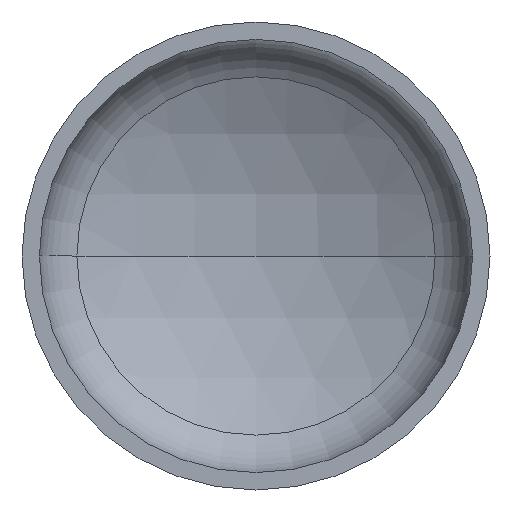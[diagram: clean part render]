
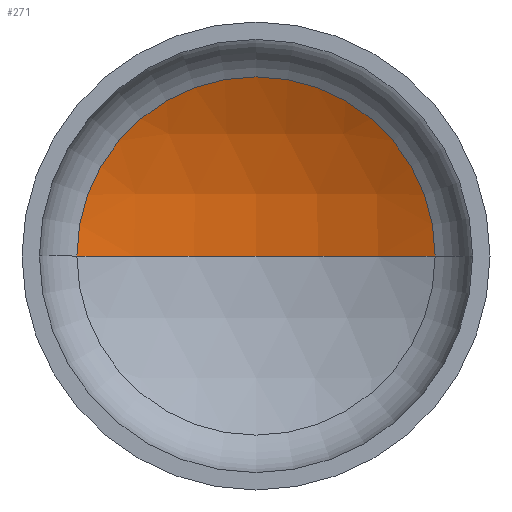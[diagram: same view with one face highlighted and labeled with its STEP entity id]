
A CAD part, front view. The second image highlights one B-rep face of the part: STEP entity #271.
In plain terms, the highlighted spherical face has radius 1120 mm.
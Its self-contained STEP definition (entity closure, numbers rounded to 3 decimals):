
#5 = ORIENTED_EDGE ( 'NONE', *, *, #63, .T. ) ;
#6 = ORIENTED_EDGE ( 'NONE', *, *, #68, .F. ) ;
#18 = AXIS2_PLACEMENT_3D ( 'NONE', #194, #196, #272 ) ;
#19 = AXIS2_PLACEMENT_3D ( 'NONE', #222, #216, #207 ) ;
#20 = AXIS2_PLACEMENT_3D ( 'NONE', #311, #309, #308 ) ;
#31 = EDGE_LOOP ( 'NONE', ( #6, #64, #5 ) ) ;
#51 = VERTEX_POINT ( 'NONE', #288 ) ;
#63 = EDGE_CURVE ( 'NONE', #208, #51, #376, .T. ) ;
#64 = ORIENTED_EDGE ( 'NONE', *, *, #65, .T. ) ;
#65 = EDGE_CURVE ( 'NONE', #105, #208, #307, .T. ) ;
#68 = EDGE_CURVE ( 'NONE', #105, #51, #185, .T. ) ;
#105 = VERTEX_POINT ( 'NONE', #345 ) ;
#146 = CARTESIAN_POINT ( 'NONE',  ( 0., -674.692, 0. ) ) ;
#154 = DIRECTION ( 'NONE',  ( -1., 0., 0. ) ) ;
#158 = FACE_OUTER_BOUND ( 'NONE', #31, .T. ) ;
#169 = DIRECTION ( 'NONE',  ( 0., 0., -1. ) ) ;
#171 = CARTESIAN_POINT ( 'NONE',  ( 535.867, 308.794, 0. ) ) ;
#185 = CIRCLE ( 'NONE', #18, 1120. ) ;
#194 = CARTESIAN_POINT ( 'NONE',  ( 0., -674.692, 0. ) ) ;
#196 = DIRECTION ( 'NONE',  ( 0., 0., 1. ) ) ;
#207 = DIRECTION ( 'NONE',  ( -1., 0., 0. ) ) ;
#208 = VERTEX_POINT ( 'NONE', #171 ) ;
#216 = DIRECTION ( 'NONE',  ( 0., 0., -1. ) ) ;
#222 = CARTESIAN_POINT ( 'NONE',  ( 0., -674.692, 0. ) ) ;
#271 = ADVANCED_FACE ( 'NONE', ( #158 ), #347, .F. ) ;
#272 = DIRECTION ( 'NONE',  ( 1., 0., 0. ) ) ;
#288 = CARTESIAN_POINT ( 'NONE',  ( -535.867, 308.794, 0. ) ) ;
#291 = AXIS2_PLACEMENT_3D ( 'NONE', #146, #169, #154 ) ;
#307 = CIRCLE ( 'NONE', #19, 1120. ) ;
#308 = DIRECTION ( 'NONE',  ( 1., 0., 0. ) ) ;
#309 = DIRECTION ( 'NONE',  ( 0., -1., 0. ) ) ;
#311 = CARTESIAN_POINT ( 'NONE',  ( 0., 308.794, 0. ) ) ;
#345 = CARTESIAN_POINT ( 'NONE',  ( 0., 445.308, 0. ) ) ;
#347 = SPHERICAL_SURFACE ( 'NONE', #291, 1120. ) ;
#376 = CIRCLE ( 'NONE', #20, 535.867 ) ;
